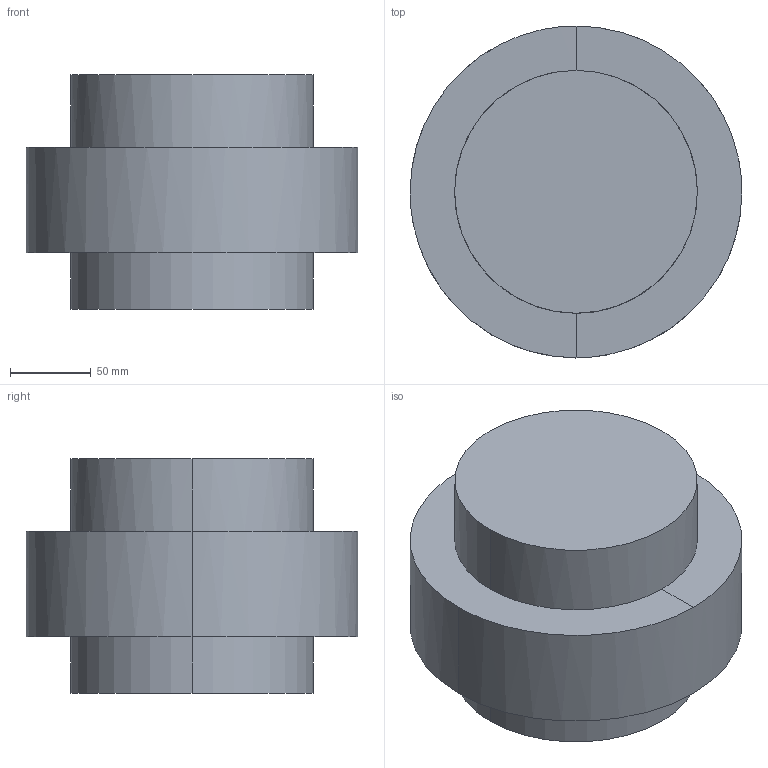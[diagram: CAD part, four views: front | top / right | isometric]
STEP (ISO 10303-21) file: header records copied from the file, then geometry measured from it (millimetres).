
FILE_DESCRIPTION((' '),'2;1');
FILE_NAME( 'Turning_demo.STEP', '2022-02-07T16:28:14', (' '), ('--- Datakit www.datakit.com---'), ' Datakit CrossCadWare V2022.1 Dec 18 2021', 'GO2cam V6.09', ' ');
FILE_SCHEMA(('AUTOMOTIVE_DESIGN { 1 0 10303 214 1 1 1 1 }'));
Length unit declared in the file: millimetre
Products named in the file (1): part
Bounding box: 205 x 205 x 145 mm (x, y, z)
Volume: 4970253.4 mm3; surface area: 323526.2 mm2
Topology: 2 solids, 2 shells, 95 faces, 242 edges, 158 vertices
Faces by surface type: bspline 54, plane 41
Entity records: 5862 total; most frequent: CARTESIAN_POINT 3869, ORIENTED_EDGE 484, DIRECTION 280, EDGE_CURVE 242, VERTEX_POINT 158, EDGE_LOOP 104, VECTOR 100, LINE 100
